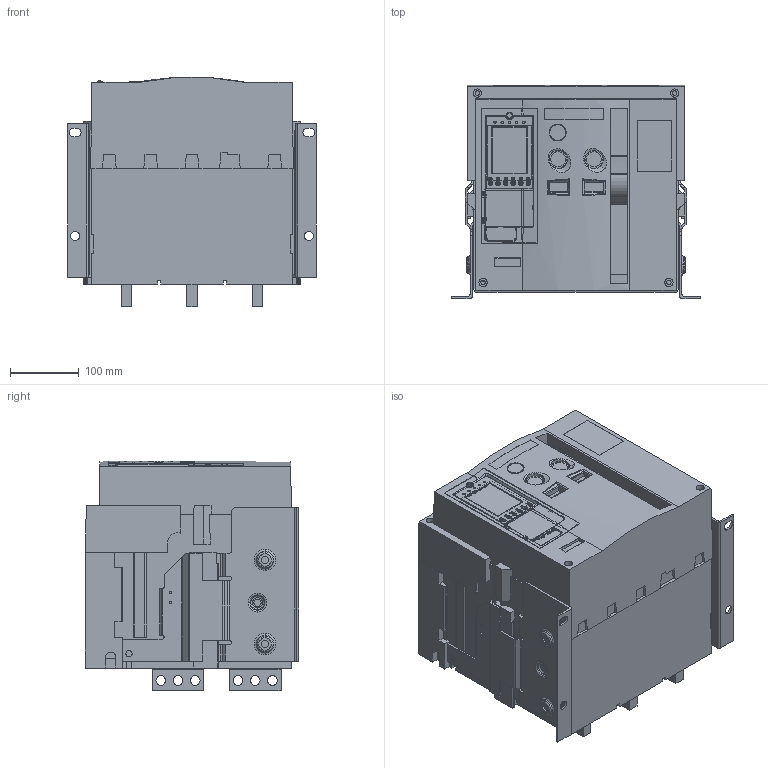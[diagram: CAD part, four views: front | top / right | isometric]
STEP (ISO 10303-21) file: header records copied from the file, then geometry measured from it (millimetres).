
FILE_DESCRIPTION (( 'STEP AP214' ), '1' );
FILE_NAME ('OptiMat A-S2-B-2000-3P-F-V.STEP', '2023-07-31T08:03:50', ( '' ), ( '' ), 'SwSTEP 2.0', 'SolidWorks 2018', '' );
FILE_SCHEMA (( 'AUTOMOTIVE_DESIGN' ));
Length unit declared in the file: millimetre
Products named in the file (1): OptiMat A-S2-B-2000-3P-F-V
Bounding box: 361 x 310 x 333.36 mm (x, y, z)
Volume: 24503857.6 mm3; surface area: 1290622.6 mm2
Topology: 2 solids, 27 shells, 3592 faces, 9316 edges, 5898 vertices
Faces by surface type: plane 1511, cylinder 1224, cone 285, torus 282, bspline 238, sphere 52
Entity records: 165935 total; most frequent: CARTESIAN_POINT 41680, ORIENTED_EDGE 18562, DIRECTION 17813, EDGE_CURVE 9281, AXIS2_PLACEMENT_3D 6418, VERTEX_POINT 5892, LINE 4977, VECTOR 4977
